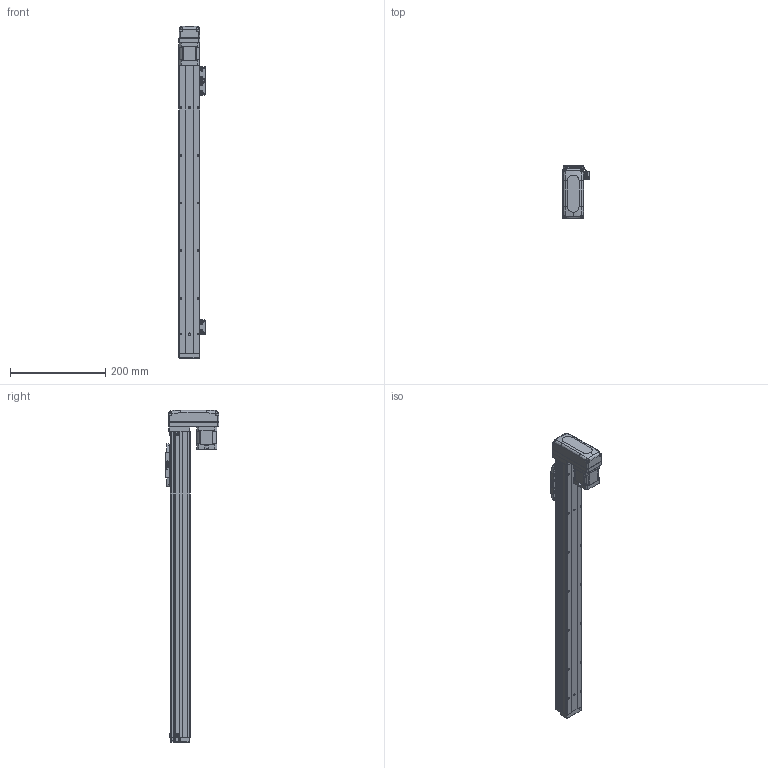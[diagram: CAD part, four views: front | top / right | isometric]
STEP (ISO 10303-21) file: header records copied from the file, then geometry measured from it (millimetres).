
FILE_DESCRIPTION (( 'STEP AP203' ), '1' );
FILE_NAME ('GTH4-500-BM-B42-C4.step', '2023-02-14T00:21:56', ( '微软用户' ), ( '微软中国' ), 'SwSTEP 2.0', 'SolidWorks 2020', '' );
FILE_SCHEMA (( 'CONFIG_CONTROL_DESIGN' ));
Length unit declared in the file: millimetre
Products named in the file (19): GBT70.1-2000 M3×16; GBT 70.1-M2.5×6; GTH4-500-BM-B42-C4; BTH50-028; BTH40-004; BTH50-023; BTH40-013; BTH40-001-50_BTH40-001-500; BTH50-024; GBT 70.3-M3℅6; BTH40-003; GBT 70.1-M3℅6; BTH40-027-1; BTH40-006; GBT96.1-2002 3×0.8; BTH50-026; BTH-M3X5X6; BTH40-022; 42CM06
Assembly tree (47 placements, depth 2):
  GTH4-500-BM-B42-C4
    BTH40-001-50_BTH40-001-500
    BTH40-003
    BTH40-006
    BTH-M3X5X6  x8
    GBT70.1-2000 M3×16  x4
    BTH50-028  x2
    BTH50-023  x3
    BTH50-024  x3
    GBT 70.1-M3℅6  x6
    GBT96.1-2002 3×0.8  x6
    BTH40-022
    GBT 70.1-M2.5×6  x2
    BTH40-004
    BTH40-013
    GBT 70.3-M3℅6  x4
    BTH40-027-1
    BTH50-026
    42CM06
Bounding box: 55.2 x 112 x 696 mm (x, y, z)
Volume: 1224784.1 mm3; surface area: 238592.4 mm2
Topology: 56 solids, 56 shells, 3339 faces, 7784 edges, 4654 vertices
Faces by surface type: cone 1508, plane 1076, cylinder 577, torus 124, bspline 42, sphere 12
Entity records: 78038 total; most frequent: CARTESIAN_POINT 14065, DIRECTION 13873, ORIENTED_EDGE 12214, EDGE_CURVE 6107, AXIS2_PLACEMENT_3D 5325, VERTEX_POINT 3641, VECTOR 3223, LINE 3223
